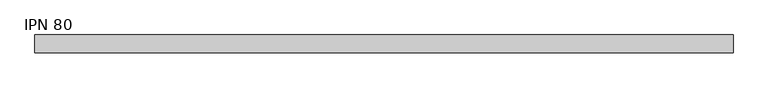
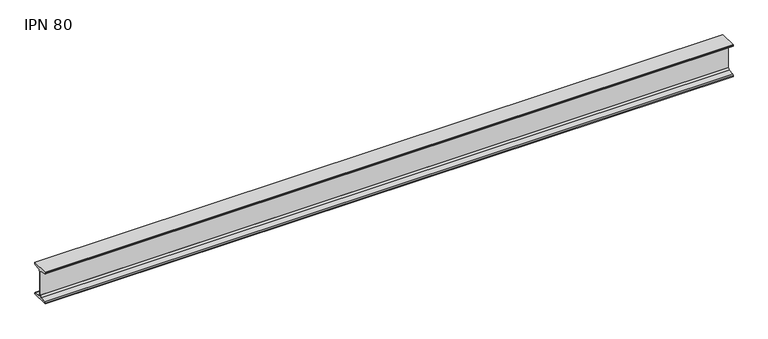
"""IFC4 building model written with IfcOpenShell, lengths in millimetres: beam geometry, IPN - Secciones en I con alas cónicas : IPN 80."""

from ifc_helpers import new_model, si_unit, point, frame, frame_2d, origin, place, context, project, spatial, polyline, circle_curve, trimmed, segment, composite_curve, outline, extrude, source, transform, mapped, element, save


def ipn_80_94bfb847(model_context):
    return source(origin(), model_context, "Body", "SweptSolid", [
        extrude(outline(composite_curve([segment(polyline([(21.0, 40.0), (21.0, 37.5704306)]), True, "CONTINUOUS"), segment(trimmed(circle_curve(frame_2d((18.7, 37.5704306)), 2.3), [point((21.0, 37.5704306))], [point((19.01889, 35.2926446))], False, "CARTESIAN"), True, "CONTINUOUS"), segment(polyline([(19.01889, 35.2926446), (5.3092734, 33.3732983)]), True, "CONTINUOUS"), segment(trimmed(circle_curve(frame_2d((5.85, 29.5109655)), 3.9), [point((5.3092734, 33.3732983))], [point((1.95, 29.5109655))], True, "CARTESIAN"), True, "CONTINUOUS"), segment(polyline([(1.95, 29.5109655), (1.95, -29.5109655)]), True, "CONTINUOUS"), segment(trimmed(circle_curve(frame_2d((5.85, -29.5109655)), 3.9), [point((1.95, -29.5109655))], [point((5.3092734, -33.3732983))], True, "CARTESIAN"), True, "CONTINUOUS"), segment(polyline([(5.3092734, -33.3732983), (19.01889, -35.2926446)]), True, "CONTINUOUS"), segment(trimmed(circle_curve(frame_2d((18.7, -37.5704306)), 2.3), [point((19.01889, -35.2926446))], [point((21.0, -37.5704306))], False, "CARTESIAN"), True, "CONTINUOUS"), segment(polyline([(21.0, -37.5704306), (21.0, -40.0), (-21.0, -40.0), (-21.0, -37.5704306)]), True, "CONTINUOUS"), segment(trimmed(circle_curve(frame_2d((-18.7, -37.5704306)), 2.3), [point((-21.0, -37.5704306))], [point((-19.01889, -35.2926446))], False, "CARTESIAN"), True, "CONTINUOUS"), segment(polyline([(-19.01889, -35.2926446), (-5.3092734, -33.3732983)]), True, "CONTINUOUS"), segment(trimmed(circle_curve(frame_2d((-5.85, -29.5109655)), 3.9), [point((-5.3092734, -33.3732983))], [point((-1.95, -29.5109655))], True, "CARTESIAN"), True, "CONTINUOUS"), segment(polyline([(-1.95, -29.5109655), (-1.95, 29.5109655)]), True, "CONTINUOUS"), segment(trimmed(circle_curve(frame_2d((-5.85, 29.5109655)), 3.9), [point((-1.95, 29.5109655))], [point((-5.3092734, 33.3732983))], True, "CARTESIAN"), True, "CONTINUOUS"), segment(polyline([(-5.3092734, 33.3732983), (-19.01889, 35.2926446)]), True, "CONTINUOUS"), segment(trimmed(circle_curve(frame_2d((-18.7, 37.5704306)), 2.3), [point((-19.01889, 35.2926446))], [point((-21.0, 37.5704306))], False, "CARTESIAN"), True, "CONTINUOUS"), segment(polyline([(-21.0, 37.5704306), (-21.0, 40.0), (21.0, 40.0)]), True, "CONTINUOUS")], self_intersect=False)), frame((-830.0, 0.0, 0.0), z_axis=(1.0, 0.0, 0.0), x_axis=(0.0, 1.0, 0.0)), (0.0, 0.0, 1.0), 1645.0),
    ])


if __name__ == "__main__":
    model = new_model("IFC4")
    model_context = context("Model", 3, world=origin())
    ifc_project = project(units=[si_unit("LENGTHUNIT", "METRE", prefix="MILLI")], contexts=[model_context])
    site = spatial("IfcSite", under=ifc_project)
    building = spatial("IfcBuilding", under=site)
    placement = place(None, origin())
    ipn_80_shape = ipn_80_94bfb847(model_context)
    element("IfcBeam", 1, ObjectType="IPN - Secciones en I con alas cónicas : IPN 80", at=placement, inside=building, context=model_context, shape_type="MappedRepresentation", body=[
        mapped(ipn_80_shape, transform((0.0, 0.0, 0.0), x_axis=(1.0, 0.0, 0.0), y_axis=(0.0, 1.0, 0.0), z_axis=(0.0, 0.0, 1.0))),
    ])
    save(model, "model.ifc")
